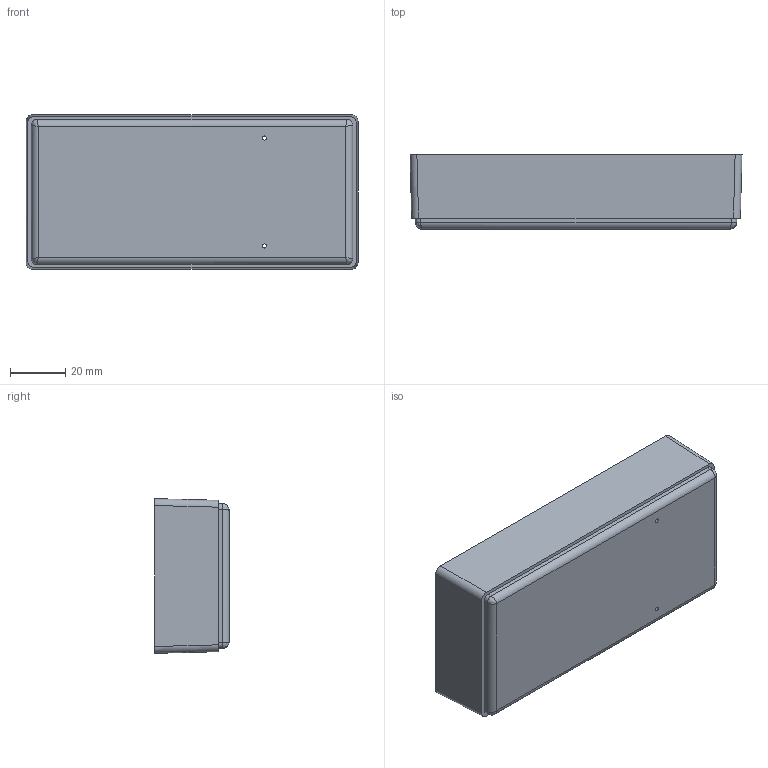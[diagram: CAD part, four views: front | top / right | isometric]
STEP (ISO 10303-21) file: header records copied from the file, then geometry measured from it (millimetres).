
FILE_DESCRIPTION (( 'STEP AP214' ), '1' );
FILE_NAME ('Cos PP4.STEP', '2017-07-17T07:54:21', ( 'aaa' ), ( '' ), 'SwSTEP 2.0', 'SolidWorks 2013', '' );
FILE_SCHEMA (( 'AUTOMOTIVE_DESIGN' ));
Length unit declared in the file: millimetre
Products named in the file (1): Cos PP4
Bounding box: 120.6 x 27 x 56.2 mm (x, y, z)
Volume: 26691.8 mm3; surface area: 31254.2 mm2
Topology: 1 solids, 1 shells, 61 faces, 148 edges, 92 vertices
Faces by surface type: cylinder 32, plane 25, bspline 4
Entity records: 1956 total; most frequent: CARTESIAN_POINT 558, ORIENTED_EDGE 288, DIRECTION 276, EDGE_CURVE 144, AXIS2_PLACEMENT_3D 98, VERTEX_POINT 92, VECTOR 80, LINE 80
